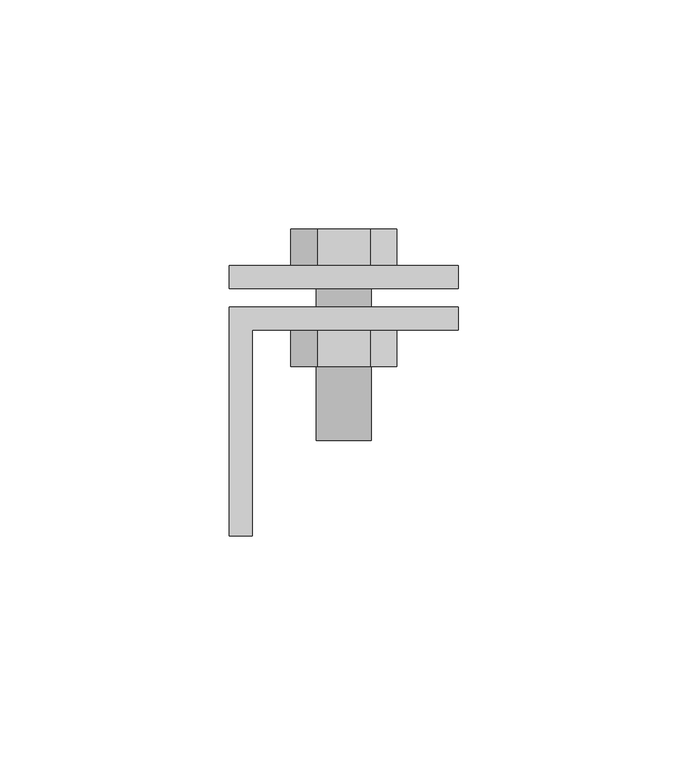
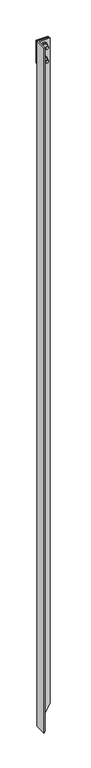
"""IFC4 building model written with IfcOpenShell, lengths in millimetres: proxy geometry, КНС_ЗаземлительВертикальныйПрофильный_DKC : NE5503_Горячеоцинкованная сталь_3м."""

from ifc_helpers import new_model, si_unit, frame, origin, place, context, project, spatial, circle_curve, faceted_brep, source, transform, mapped, element, save
from ifc_brep_helpers import plane_surface, cylinder_surface, advanced_brep


def security_devices_947c4738(model_context):
    return source(origin(), model_context, "Body", "SolidModel", [
        advanced_brep(
        [(0.0, 9.0, 2900.0), (0.0, 9.0, 3000.0), (50.0, 9.0, 3000.0), (50.0, 9.0, 2900.0), (19.2264973, 9.0, 2990.0), (13.4529946, 9.0, 2980.0), (19.2264973, 9.0, 2970.0), (30.7735027, 9.0, 2970.0), (36.5470054, 9.0, 2980.0), (30.7735027, 9.0, 2990.0), (19.2264973, 9.0, 2930.0), (13.4529946, 9.0, 2920.0), (19.2264973, 9.0, 2910.0), (30.7735027, 9.0, 2910.0), (36.5470054, 9.0, 2920.0), (30.7735027, 9.0, 2930.0), (31.0, -29.1588598, 2980.0), (19.0, -29.1588598, 2980.0), (31.0, -29.1588598, 2920.0), (19.0, -29.1588598, 2920.0), (19.0, -13.0, 2980.0), (31.0, -13.0, 2980.0), (31.0, -5.0, 2980.0), (19.0, -5.0, 2980.0), (19.0, 4.0, 2980.0), (31.0, 4.0, 2980.0), (19.0, -13.0, 2920.0), (31.0, -13.0, 2920.0), (31.0, -5.0, 2920.0), (19.0, -5.0, 2920.0), (19.0, 4.0, 2920.0), (31.0, 4.0, 2920.0), (13.4529946, -5.0, 2980.0), (19.2264973, -5.0, 2990.0), (30.7735027, -5.0, 2990.0), (36.5470054, -5.0, 2980.0), (30.7735027, -5.0, 2970.0), (19.2264973, -5.0, 2970.0), (13.4529946, -5.0, 2920.0), (19.2264973, -5.0, 2930.0), (30.7735027, -5.0, 2930.0), (36.5470054, -5.0, 2920.0), (30.7735027, -5.0, 2910.0), (19.2264973, -5.0, 2910.0), (13.4529946, -13.0, 2980.0), (19.2264973, -13.0, 2970.0), (30.7735027, -13.0, 2970.0), (36.5470054, -13.0, 2980.0), (30.7735027, -13.0, 2990.0), (19.2264973, -13.0, 2990.0), (13.4529946, -13.0, 2920.0), (19.2264973, -13.0, 2910.0), (30.7735027, -13.0, 2910.0), (36.5470054, -13.0, 2920.0), (30.7735027, -13.0, 2930.0), (19.2264973, -13.0, 2930.0), (0.0, 4.0, 2900.0), (50.0, 4.0, 2900.0), (50.0, 4.0, 3000.0), (0.0, 4.0, 3000.0), (13.4529946, 17.0, 2980.0), (19.2264973, 17.0, 2990.0), (30.7735027, 17.0, 2990.0), (36.5470054, 17.0, 2980.0), (30.7735027, 17.0, 2970.0), (19.2264973, 17.0, 2970.0), (13.4529946, 17.0, 2920.0), (19.2264973, 17.0, 2930.0), (30.7735027, 17.0, 2930.0), (36.5470054, 17.0, 2920.0), (30.7735027, 17.0, 2910.0), (19.2264973, 17.0, 2910.0)],
        [
            (0, 1),
            (1, 2),
            (2, 3),
            (3, 0),
            (4, 5),
            (5, 6),
            (6, 7),
            (7, 8),
            (8, 9),
            (9, 4),
            (10, 11),
            (11, 12),
            (12, 13),
            (13, 14),
            (14, 15),
            (15, 10),
            (16, 17, circle_curve(frame((25.0, -29.1588598, 2980.0), z_axis=(0.0, -1.0, 0.0), x_axis=(-1.0, 0.0, 0.0)), 6.0)),
            (17, 16, circle_curve(frame((25.0, -29.1588598, 2980.0), z_axis=(0.0, -1.0, 0.0), x_axis=(-1.0, 0.0, 0.0)), 6.0)),
            (18, 19, circle_curve(frame((25.0, -29.1588598, 2920.0), z_axis=(0.0, -1.0, 0.0), x_axis=(-1.0, 0.0, 0.0)), 6.0)),
            (19, 18, circle_curve(frame((25.0, -29.1588598, 2920.0), z_axis=(0.0, -1.0, 0.0), x_axis=(-1.0, 0.0, 0.0)), 6.0)),
            (17, 20),
            (20, 21, circle_curve(frame((25.0, -13.0, 2980.0), z_axis=(0.0, -1.0, 0.0), x_axis=(-1.0, 0.0, 0.0)), 6.0)),
            (21, 16),
            (22, 23, circle_curve(frame((25.0, -5.0, 2980.0), z_axis=(0.0, 1.0, 0.0), x_axis=(-1.0, 0.0, 0.0)), 6.0)),
            (23, 24),
            (24, 25, circle_curve(frame((25.0, 4.0, 2980.0), z_axis=(0.0, -1.0, 0.0), x_axis=(-1.0, 0.0, 0.0)), 6.0)),
            (25, 22),
            (21, 20, circle_curve(frame((25.0, -13.0, 2980.0), z_axis=(0.0, -1.0, 0.0), x_axis=(-1.0, 0.0, 0.0)), 6.0)),
            (23, 22, circle_curve(frame((25.0, -5.0, 2980.0), z_axis=(0.0, 1.0, 0.0), x_axis=(-1.0, 0.0, 0.0)), 6.0)),
            (25, 24, circle_curve(frame((25.0, 4.0, 2980.0), z_axis=(0.0, -1.0, 0.0), x_axis=(-1.0, 0.0, 0.0)), 6.0)),
            (19, 26),
            (26, 27, circle_curve(frame((25.0, -13.0, 2920.0), z_axis=(0.0, -1.0, 0.0), x_axis=(-1.0, 0.0, 0.0)), 6.0)),
            (27, 18),
            (28, 29, circle_curve(frame((25.0, -5.0, 2920.0), z_axis=(0.0, 1.0, 0.0), x_axis=(-1.0, 0.0, 0.0)), 6.0)),
            (29, 30),
            (30, 31, circle_curve(frame((25.0, 4.0, 2920.0), z_axis=(0.0, -1.0, 0.0), x_axis=(-1.0, 0.0, 0.0)), 6.0)),
            (31, 28),
            (27, 26, circle_curve(frame((25.0, -13.0, 2920.0), z_axis=(0.0, -1.0, 0.0), x_axis=(-1.0, 0.0, 0.0)), 6.0)),
            (29, 28, circle_curve(frame((25.0, -5.0, 2920.0), z_axis=(0.0, 1.0, 0.0), x_axis=(-1.0, 0.0, 0.0)), 6.0)),
            (31, 30, circle_curve(frame((25.0, 4.0, 2920.0), z_axis=(0.0, -1.0, 0.0), x_axis=(-1.0, 0.0, 0.0)), 6.0)),
            (32, 33),
            (33, 34),
            (34, 35),
            (35, 36),
            (36, 37),
            (37, 32),
            (38, 39),
            (39, 40),
            (40, 41),
            (41, 42),
            (42, 43),
            (43, 38),
            (44, 45),
            (45, 46),
            (46, 47),
            (47, 48),
            (48, 49),
            (49, 44),
            (50, 51),
            (51, 52),
            (52, 53),
            (53, 54),
            (54, 55),
            (55, 50),
            (32, 44),
            (49, 33),
            (48, 34),
            (47, 35),
            (46, 36),
            (45, 37),
            (38, 50),
            (55, 39),
            (54, 40),
            (53, 41),
            (52, 42),
            (51, 43),
            (56, 57),
            (57, 58),
            (58, 59),
            (59, 56),
            (0, 56),
            (59, 1),
            (58, 2),
            (57, 3),
            (60, 61),
            (61, 62),
            (62, 63),
            (63, 64),
            (64, 65),
            (65, 60),
            (66, 67),
            (67, 68),
            (68, 69),
            (69, 70),
            (70, 71),
            (71, 66),
            (60, 5),
            (4, 61),
            (9, 62),
            (8, 63),
            (7, 64),
            (6, 65),
            (66, 11),
            (10, 67),
            (15, 68),
            (14, 69),
            (13, 70),
            (12, 71),
        ],
        [
            plane_surface(frame((19.0, 9.0, 2980.0), z_axis=(0.0, 1.0, 0.0), x_axis=(0.0, 0.0, 1.0))),
            plane_surface(frame((19.0, -29.1588598, 2980.0), z_axis=(0.0, -1.0, 0.0), x_axis=(0.0, 0.0, -1.0))),
            cylinder_surface(frame((25.0, -29.1588598, 2980.0), z_axis=(0.0, 1.0, 0.0), x_axis=(-1.0, 0.0, 0.0)), 6.0),
            cylinder_surface(frame((25.0, 4.0, 2920.0), z_axis=(0.0, 1.0, 0.0), x_axis=(-1.0, 0.0, 0.0)), 6.0),
            plane_surface(frame((13.4529946, -5.0, 2980.0), z_axis=(0.0, 1.0, 0.0), x_axis=(0.4999999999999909, 0.0, 0.8660254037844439))),
            plane_surface(frame((13.4529946, -13.0, 2980.0), z_axis=(0.0, -1.0, 0.0), x_axis=(-0.4999999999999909, 0.0, -0.8660254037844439))),
            plane_surface(frame((13.4529946, -5.0, 2980.0), z_axis=(-0.8660254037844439, 0.0, 0.4999999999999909), x_axis=(0.0, -1.0, 0.0))),
            plane_surface(frame((19.2264973, -5.0, 2990.0), z_axis=(0.0, 0.0, 1.0), x_axis=(0.0, -1.0, 0.0))),
            plane_surface(frame((30.7735027, -5.0, 2990.0), z_axis=(0.8660254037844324, 0.0, 0.5000000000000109), x_axis=(0.0, -1.0, 0.0))),
            plane_surface(frame((36.5470054, -5.0, 2980.0), z_axis=(0.8660254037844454, 0.0, -0.4999999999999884), x_axis=(0.0, -1.0, 0.0))),
            plane_surface(frame((30.7735027, -5.0, 2970.0), z_axis=(0.0, 0.0, -1.0), x_axis=(0.0, -1.0, 0.0))),
            plane_surface(frame((19.2264973, -5.0, 2970.0), z_axis=(-0.8660254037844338, 0.0, -0.5000000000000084), x_axis=(0.0, -1.0, 0.0))),
            plane_surface(frame((13.4529946, -5.0, 2920.0), z_axis=(-0.8660254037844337, 0.0, 0.5000000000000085), x_axis=(0.0, -1.0, 0.0))),
            plane_surface(frame((19.2264973, -5.0, 2930.0), z_axis=(0.0, 0.0, 1.0), x_axis=(0.0, -1.0, 0.0))),
            plane_surface(frame((30.7735027, -5.0, 2930.0), z_axis=(0.8660254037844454, 0.0, 0.4999999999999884), x_axis=(0.0, -1.0, 0.0))),
            plane_surface(frame((36.5470054, -5.0, 2920.0), z_axis=(0.8660254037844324, 0.0, -0.5000000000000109), x_axis=(0.0, -1.0, 0.0))),
            plane_surface(frame((30.7735027, -5.0, 2910.0), z_axis=(0.0, 0.0, -1.0), x_axis=(0.0, -1.0, 0.0))),
            plane_surface(frame((19.2264973, -5.0, 2910.0), z_axis=(-0.8660254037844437, 0.0, -0.4999999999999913), x_axis=(0.0, -1.0, 0.0))),
            plane_surface(frame((0.0, 4.0, 2900.0), z_axis=(0.0, -1.0, 0.0), x_axis=(0.0, 0.0, -1.0))),
            plane_surface(frame((0.0, 9.0, 2900.0), z_axis=(-1.0, 0.0, 0.0), x_axis=(0.0, -1.0, 0.0))),
            plane_surface(frame((0.0, 9.0, 3000.0), z_axis=(0.0, 0.0, 1.0), x_axis=(0.0, -1.0, 0.0))),
            plane_surface(frame((50.0, 9.0, 3000.0), z_axis=(1.0, 0.0, 0.0), x_axis=(0.0, -1.0, 0.0))),
            plane_surface(frame((50.0, 9.0, 2900.0), z_axis=(0.0, 0.0, -1.0), x_axis=(0.0, -1.0, 0.0))),
            plane_surface(frame((13.4529946, 17.0, 2980.0), z_axis=(0.0, 1.0, 0.0), x_axis=(0.4999999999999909, 0.0, 0.8660254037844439))),
            plane_surface(frame((13.4529946, 17.0, 2980.0), z_axis=(-0.8660254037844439, 0.0, 0.4999999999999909), x_axis=(0.0, -1.0, 0.0))),
            plane_surface(frame((19.2264973, 17.0, 2990.0), z_axis=(0.0, 0.0, 1.0), x_axis=(0.0, -1.0, 0.0))),
            plane_surface(frame((30.7735027, 17.0, 2990.0), z_axis=(0.8660254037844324, 0.0, 0.5000000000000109), x_axis=(0.0, -1.0, 0.0))),
            plane_surface(frame((36.5470054, 17.0, 2980.0), z_axis=(0.8660254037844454, 0.0, -0.4999999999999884), x_axis=(0.0, -1.0, 0.0))),
            plane_surface(frame((30.7735027, 17.0, 2970.0), z_axis=(0.0, 0.0, -1.0), x_axis=(0.0, -1.0, 0.0))),
            plane_surface(frame((19.2264973, 17.0, 2970.0), z_axis=(-0.8660254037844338, 0.0, -0.5000000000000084), x_axis=(0.0, -1.0, 0.0))),
            plane_surface(frame((13.4529946, 17.0, 2920.0), z_axis=(-0.8660254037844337, 0.0, 0.5000000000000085), x_axis=(0.0, -1.0, 0.0))),
            plane_surface(frame((19.2264973, 17.0, 2930.0), z_axis=(0.0, 0.0, 1.0), x_axis=(0.0, -1.0, 0.0))),
            plane_surface(frame((30.7735027, 17.0, 2930.0), z_axis=(0.8660254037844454, 0.0, 0.4999999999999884), x_axis=(0.0, -1.0, 0.0))),
            plane_surface(frame((36.5470054, 17.0, 2920.0), z_axis=(0.8660254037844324, 0.0, -0.5000000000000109), x_axis=(0.0, -1.0, 0.0))),
            plane_surface(frame((30.7735027, 17.0, 2910.0), z_axis=(0.0, 0.0, -1.0), x_axis=(0.0, -1.0, 0.0))),
            plane_surface(frame((19.2264973, 17.0, 2910.0), z_axis=(-0.8660254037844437, 0.0, -0.4999999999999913), x_axis=(0.0, -1.0, 0.0))),
        ],
        [
            (0, [[1, 2, 3, 4], [5, 6, 7, 8, 9, 10], [11, 12, 13, 14, 15, 16]]),
            (1, [[17, 18]]),
            (1, [[19, 20]]),
            (2, [[-18, 21, 22, 23]]),
            (2, [[24, 25, 26, 27]]),
            (2, [[-17, -23, 28, -21]]),
            (2, [[29, -27, 30, -25]]),
            (3, [[-20, 31, 32, 33]]),
            (3, [[34, 35, 36, 37]]),
            (3, [[-19, -33, 38, -31]]),
            (3, [[39, -37, 40, -35]]),
            (4, [[41, 42, 43, 44, 45, 46], [-24, -29]]),
            (4, [[47, 48, 49, 50, 51, 52], [-34, -39]]),
            (5, [[53, 54, 55, 56, 57, 58], [-22, -28]]),
            (5, [[59, 60, 61, 62, 63, 64], [-32, -38]]),
            (6, [[-41, 65, -58, 66]]),
            (7, [[-42, -66, -57, 67]]),
            (8, [[-43, -67, -56, 68]]),
            (9, [[-44, -68, -55, 69]]),
            (10, [[-45, -69, -54, 70]]),
            (11, [[-46, -70, -53, -65]]),
            (12, [[-47, 71, -64, 72]]),
            (13, [[-48, -72, -63, 73]]),
            (14, [[-49, -73, -62, 74]]),
            (15, [[-50, -74, -61, 75]]),
            (16, [[-51, -75, -60, 76]]),
            (17, [[-52, -76, -59, -71]]),
            (18, [[77, 78, 79, 80], [-26, -30], [-36, -40]]),
            (19, [[-1, 81, -80, 82]]),
            (20, [[-2, -82, -79, 83]]),
            (21, [[-3, -83, -78, 84]]),
            (22, [[-4, -84, -77, -81]]),
            (23, [[85, 86, 87, 88, 89, 90]]),
            (23, [[91, 92, 93, 94, 95, 96]]),
            (24, [[-85, 97, -5, 98]]),
            (25, [[-86, -98, -10, 99]]),
            (26, [[-87, -99, -9, 100]]),
            (27, [[-88, -100, -8, 101]]),
            (28, [[-89, -101, -7, 102]]),
            (29, [[-90, -102, -6, -97]]),
            (30, [[-91, 103, -11, 104]]),
            (31, [[-92, -104, -16, 105]]),
            (32, [[-93, -105, -15, 106]]),
            (33, [[-94, -106, -14, 107]]),
            (34, [[-95, -107, -13, 108]]),
            (35, [[-96, -108, -12, -103]]),
        ],
    ),
        faceted_brep([(0.0, -50.0, 3000.0), (5.0, -50.0, 3000.0), (5.0, -5.0, 3000.0), (50.0, -5.0, 3000.0), (50.0, 0.0, 3000.0), (0.0, 0.0, 3000.0), (0.0, -50.0, 0.0), (5.0, -50.0, 8.660254), (5.0, -5.0, 8.660254), (50.0, -5.0, 86.6025404), (50.0, 0.0, 86.6025404), (0.0, 0.0, 0.0)], [[[0, 1, 2, 3, 4, 5]], [[1, 0, 6, 7]], [[2, 1, 7, 8]], [[3, 2, 8, 9]], [[4, 3, 9, 10]], [[5, 4, 10, 11]], [[0, 5, 11, 6]], [[7, 6, 11, 10, 9, 8]]]),
    ])


if __name__ == "__main__":
    model = new_model("IFC4")
    model_context = context("Model", 3, world=origin())
    ifc_project = project(units=[si_unit("LENGTHUNIT", "METRE", prefix="MILLI")], contexts=[model_context])
    site = spatial("IfcSite", under=ifc_project)
    building = spatial("IfcBuilding", under=site)
    placement = place(None, origin())
    security_devices_shape = security_devices_947c4738(model_context)
    element("IfcBuildingElementProxy", 1, Name="КНС_ЗаземлительВертикальныйПрофильный_DKC : NE5503_Горячеоцинкованная сталь_3м", ObjectType="КНС_ЗаземлительВертикальныйПрофильный_DKC : NE5503_Горячеоцинкованная сталь_3м", at=placement, inside=building, context=model_context, shape_type="MappedRepresentation", body=[
        mapped(security_devices_shape, transform((0.0, 0.0, 0.0), x_axis=(1.0, 0.0, 0.0), y_axis=(0.0, 1.0, 0.0), z_axis=(0.0, 0.0, 1.0))),
    ])
    save(model, "model.ifc")
